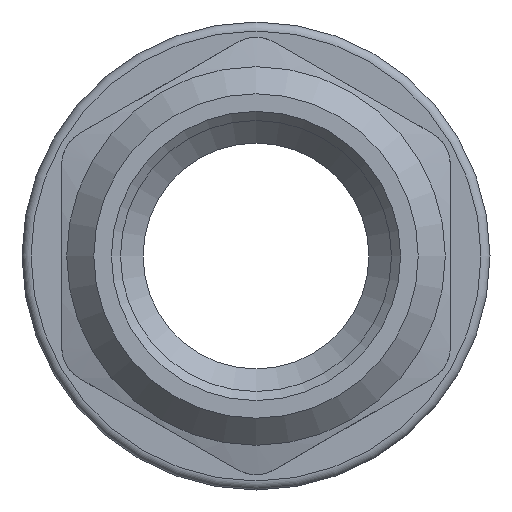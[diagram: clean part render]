
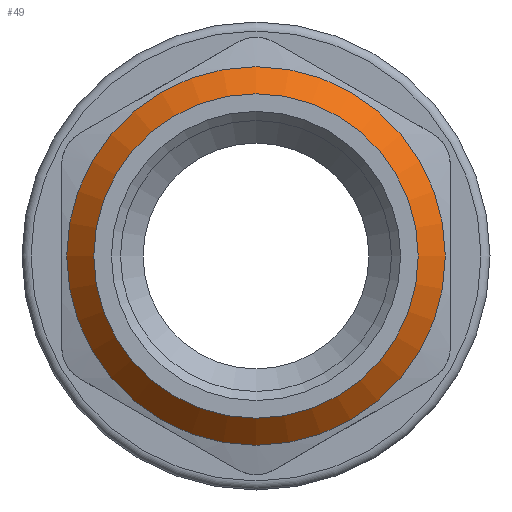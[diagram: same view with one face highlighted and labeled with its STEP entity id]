
A CAD part, front view. The second image highlights one B-rep face of the part: STEP entity #49.
In plain terms, the highlighted conical face has half-angle 45 degrees and reference radius 9.727 mm.
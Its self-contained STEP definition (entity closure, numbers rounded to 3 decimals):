
#49=ADVANCED_FACE('',(#151,#153),#155,.T.);
#151=FACE_OUTER_BOUND('',#152,.T.);
#152=EDGE_LOOP('',(#646));
#153=FACE_OUTER_BOUND('',#154,.T.);
#154=EDGE_LOOP('',(#647));
#155=CONICAL_SURFACE('',#156,9.728,0.785);
#156=AXIS2_PLACEMENT_3D('',#157,#158,#159);
#157=CARTESIAN_POINT('',(0.,-20.75,0.));
#158=DIRECTION('',(0.,1.,0.));
#159=DIRECTION('',(1.,0.,0.));
#646=ORIENTED_EDGE('',*,*,#818,.F.);
#647=ORIENTED_EDGE('',*,*,#826,.T.);
#818=EDGE_CURVE('',#910,#910,#911,.T.);
#826=EDGE_CURVE('',#926,#926,#927,.T.);
#910=VERTEX_POINT('',#1082);
#911=CIRCLE('',#1083,8.978);
#926=VERTEX_POINT('',#1122);
#927=CIRCLE('',#1123,10.478);
#1082=CARTESIAN_POINT('',(-8.978,-21.5,0.));
#1083=AXIS2_PLACEMENT_3D('',#1084,#1085,#1086);
#1084=CARTESIAN_POINT('',(0.,-21.5,0.));
#1085=DIRECTION('',(0.,-1.,0.));
#1086=DIRECTION('',(-1.,0.,0.));
#1122=CARTESIAN_POINT('',(-10.478,-20.,0.));
#1123=AXIS2_PLACEMENT_3D('',#1124,#1125,#1126);
#1124=CARTESIAN_POINT('',(0.,-20.,0.));
#1125=DIRECTION('',(0.,-1.,0.));
#1126=DIRECTION('',(-1.,0.,0.));
